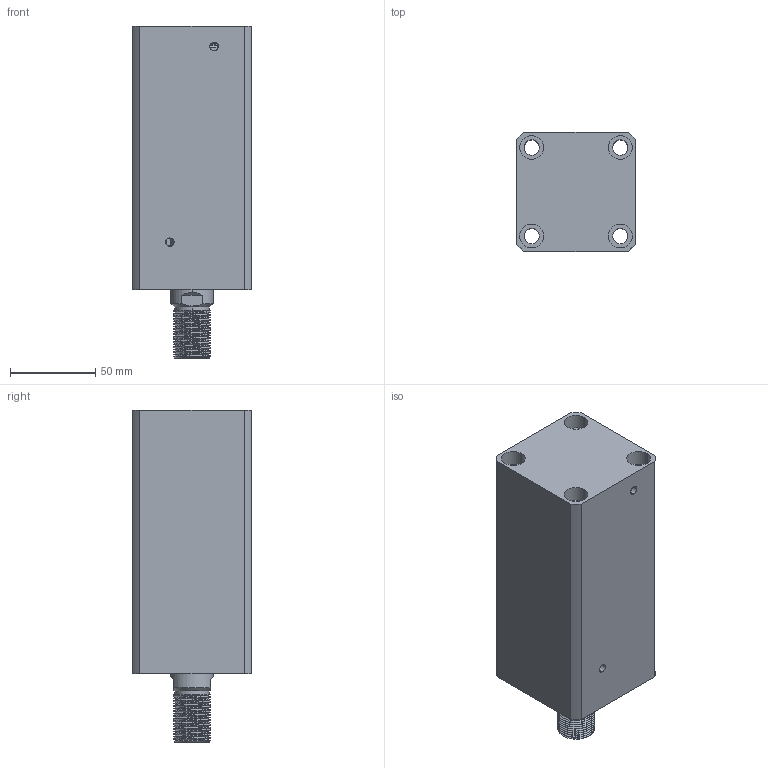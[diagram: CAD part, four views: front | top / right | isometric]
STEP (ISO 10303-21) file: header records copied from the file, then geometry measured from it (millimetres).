
FILE_DESCRIPTION (( 'STEP AP214' ), '1' );
FILE_NAME ('chtb-sdma40x100w_asm.STEP', '2018-06-06T00:19:26', ( 'Windows' ), ( 'Microsoft' ), 'SwSTEP 2.0', 'SolidWorks 2015', '' );
FILE_SCHEMA (( 'AUTOMOTIVE_DESIGN' ));
Length unit declared in the file: millimetre
Products named in the file (4): CHTB-SDMA40X100NBT; CHTB-SD40X100WHSG; CHTB-SD40QG; chtb-sdma40x100w_asm
Assembly tree (3 placements, depth 2):
  chtb-sdma40x100w_asm
    CHTB-SD40QG
    CHTB-SD40X100WHSG
    CHTB-SDMA40X100NBT
Bounding box: 70 x 70 x 195 mm (x, y, z)
Volume: 638874.8 mm3; surface area: 122755.4 mm2
Topology: 3 solids, 4 shells, 203 faces, 545 edges, 363 vertices
Faces by surface type: cylinder 122, plane 40, bspline 16, torus 14, cone 11
Entity records: 13587 total; most frequent: CARTESIAN_POINT 8658, ORIENTED_EDGE 1078, DIRECTION 914, EDGE_CURVE 539, AXIS2_PLACEMENT_3D 378, VERTEX_POINT 363, EDGE_LOOP 240, ADVANCED_FACE 203
